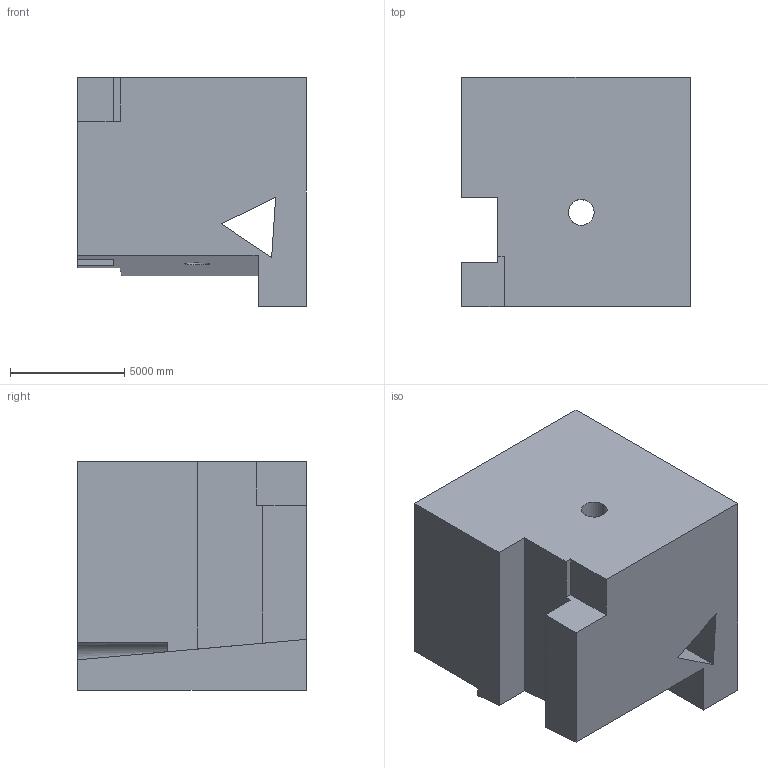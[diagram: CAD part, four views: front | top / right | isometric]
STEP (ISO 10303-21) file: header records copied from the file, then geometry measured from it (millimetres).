
FILE_DESCRIPTION (( 'STEP AP203' ), '1' );
FILE_NAME ('158.STEP', '2022-09-05T15:48:55', ( 'user' ), ( '' ), 'SwSTEP 2.0', 'SolidWorks 2021', '' );
FILE_SCHEMA (( 'CONFIG_CONTROL_DESIGN' ));
Length unit declared in the file: centimetre
Products named in the file (1): 158
Bounding box: 10000 x 10000 x 10000 mm (x, y, z)
Volume: 773519730456.8 mm3; surface area: 680771691.3 mm2
Topology: 1 solids, 1 shells, 23 faces, 63 edges, 42 vertices
Faces by surface type: plane 20, cylinder 3
Entity records: 806 total; most frequent: CARTESIAN_POINT 138, ORIENTED_EDGE 126, DIRECTION 112, EDGE_CURVE 63, VECTOR 56, LINE 56, VERTEX_POINT 42, AXIS2_PLACEMENT_3D 28
